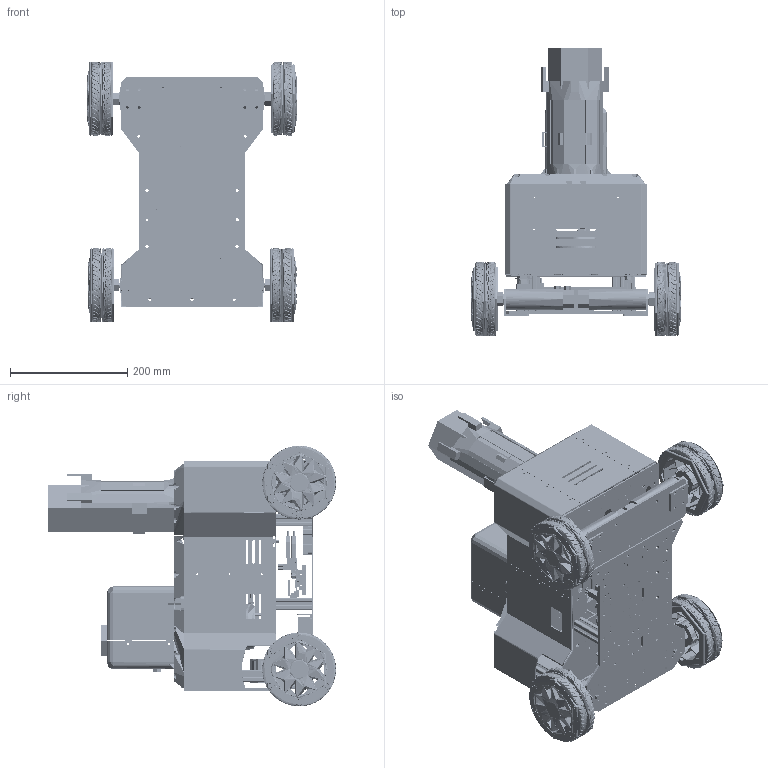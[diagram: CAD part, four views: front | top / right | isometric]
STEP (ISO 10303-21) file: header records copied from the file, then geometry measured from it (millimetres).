
FILE_DESCRIPTION (( 'STEP AP214' ), '1' );
FILE_NAME ('Full_robot_V11.STEP', '2026-11-16T09:36:13', ( '' ), ( '' ), 'SwSTEP 2.0', 'SolidWorks 2024', '' );
FILE_SCHEMA (( 'AUTOMOTIVE_DESIGN' ));
Length unit declared in the file: millimetre
Products named in the file (54): V11_TOP_06; V11_GIM_front; V11_BREF_003; V11_V6_REF_column_04; V11_BREF_028; V11_BREF_020; V11_TOP_03; V11_BREF_013; V11_TOP_02; V11_REF_bottle_raised; V11_REF_strap_lower; V11_V6_R_rear; V11_TOP_05; V11_BREF_019; V11_BREF_001; V11_BREF_008; V11_BREF_010; V11_TOP_01; V11_BREF_022; V11_V6_REF_top150; V11_V6_end_rear; V11_BREF_024; V11_BREF_018; V11_BREF_014; V11_V6_REF_column_02; Full_robot_V11; V11_BREF_011; V11_BREF_026; V11_BREF_012; V11_V6_L_rear; V11_FE_lower; V11_REF_radar; V11_V6_R_front; V11_BREF_005; V11_BREF_004; V11_BREF_025; V11_REF_connector; V11_V6_end_front; V11_BREF_029; V11_BREF_016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
Assembly tree (67 placements, depth 2):
  Full_robot_V11
    V11_FE_lower
    V11_GIM_front
    V11_GIM_rear
    V11_REF_connector
    V11_V6_end_front
    V11_V6_end_rear
    V11_V6_L_front
    V11_V6_L_rear
    V11_V6_REF_column_01
    V11_V6_REF_column_02
    V11_V6_REF_column_03
    V11_V6_REF_column_04
    V11_V6_REF_top150
    V11_V6_R_front
    V11_V6_R_rear
    V11_REF_bottle_raised
    V11_REF_strap_lower
    V11_TOP_01
    V11_TOP_02
    V11_TOP_03
    V11_TOP_04
    V11_TOP_05
    V11_TOP_06
    V11_BREF_001  x4
    V11_BREF_003  x4
    V11_BREF_004
    V11_BREF_005  x5
    V11_BREF_006
    V11_BREF_007  x4
    V11_BREF_008
    V11_BREF_009  x4
    V11_BREF_010
    V11_BREF_011
    V11_BREF_012
    V11_BREF_013
    V11_BREF_014
    V11_BREF_015
    V11_BREF_016
    V11_BREF_017
    V11_BREF_018
    V11_BREF_019
    V11_BREF_020
    V11_BREF_021
    V11_BREF_022
    V11_BREF_023
    V11_BREF_024
    V11_BREF_025
    V11_BREF_026
    V11_BREF_027
    V11_BREF_028
    V11_BREF_029
  V11_REF_radar
  V11_BREF_002
Bounding box: 359.8 x 492 x 444.7 mm (x, y, z)
Topology: 68 solids, 7291 shells, 27454 faces, 101011 edges, 80102 vertices
Faces by surface type: plane 12026, bspline 6417, cylinder 5869, cone 2272, torus 444, sphere 426
Entity records: 1002527 total; most frequent: CARTESIAN_POINT 414204, ORIENTED_EDGE 114089, DIRECTION 88862, EDGE_CURVE 81493, VERTEX_POINT 67634, B_SPLINE_CURVE_WITH_KNOTS 37566, LINE 30946, VECTOR 30946
